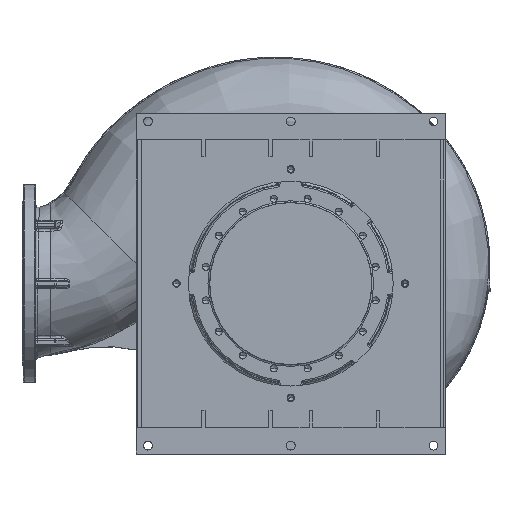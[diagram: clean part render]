
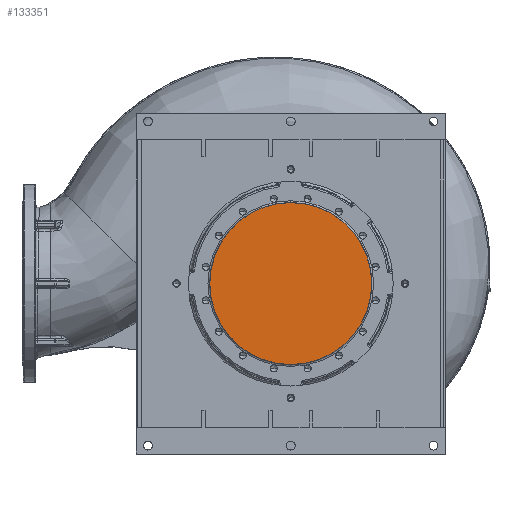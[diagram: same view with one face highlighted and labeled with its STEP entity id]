
A CAD part, front view. The second image highlights one B-rep face of the part: STEP entity #133351.
In plain terms, the highlighted planar face has unit normal (0, -1, 0).
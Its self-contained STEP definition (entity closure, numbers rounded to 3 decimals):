
#977 = DIRECTION ( 'NONE',  ( 0., 0., 1. ) ) ;
#8428 = PLANE ( 'NONE',  #133454 ) ;
#35902 = DIRECTION ( 'NONE',  ( 0., 1., 0. ) ) ;
#48014 = ORIENTED_EDGE ( 'NONE', *, *, #66286, .F. ) ;
#56182 = CARTESIAN_POINT ( 'NONE',  ( 800., 0., 0. ) ) ;
#57536 = VERTEX_POINT ( 'NONE', #137889 ) ;
#65692 = AXIS2_PLACEMENT_3D ( 'NONE', #143517, #72231, #977 ) ;
#66286 = EDGE_CURVE ( 'NONE', #108076, #57536, #116201, .T. ) ;
#68225 = DIRECTION ( 'NONE',  ( 0., 0., 1. ) ) ;
#72231 = DIRECTION ( 'NONE',  ( 0., 1., 0. ) ) ;
#78506 = CIRCLE ( 'NONE', #152216, 241. ) ;
#107236 = CARTESIAN_POINT ( 'NONE',  ( 800., 0., 0. ) ) ;
#108076 = VERTEX_POINT ( 'NONE', #121797 ) ;
#115039 = EDGE_CURVE ( 'NONE', #57536, #108076, #78506, .T. ) ;
#116201 = CIRCLE ( 'NONE', #65692, 241. ) ;
#119145 = DIRECTION ( 'NONE',  ( 0., 0., 1. ) ) ;
#121797 = CARTESIAN_POINT ( 'NONE',  ( 800., 0., -241. ) ) ;
#130894 = FACE_OUTER_BOUND ( 'NONE', #139691, .T. ) ;
#133351 = ADVANCED_FACE ( 'NONE', ( #130894 ), #8428, .F. ) ;
#133454 = AXIS2_PLACEMENT_3D ( 'NONE', #56182, #139470, #68225 ) ;
#137889 = CARTESIAN_POINT ( 'NONE',  ( 800., 0., 241. ) ) ;
#139470 = DIRECTION ( 'NONE',  ( 0., 1., 0. ) ) ;
#139691 = EDGE_LOOP ( 'NONE', ( #140813, #48014 ) ) ;
#140813 = ORIENTED_EDGE ( 'NONE', *, *, #115039, .F. ) ;
#143517 = CARTESIAN_POINT ( 'NONE',  ( 800., 0., 0. ) ) ;
#152216 = AXIS2_PLACEMENT_3D ( 'NONE', #107236, #35902, #119145 ) ;
